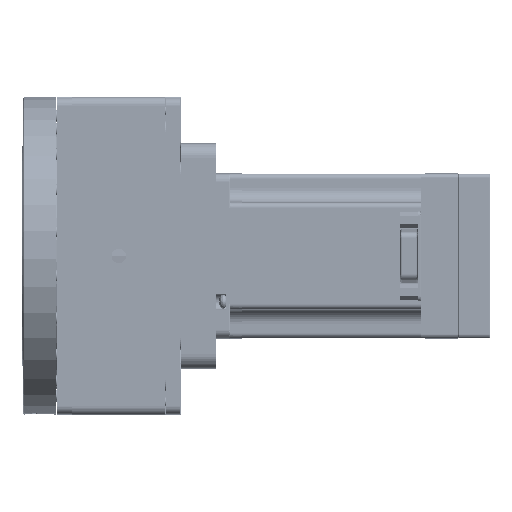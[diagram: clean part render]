
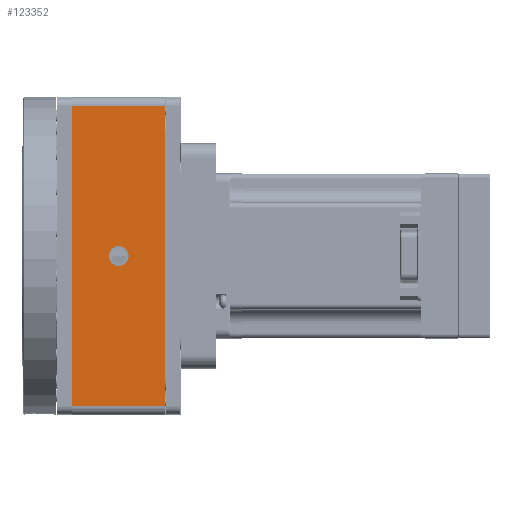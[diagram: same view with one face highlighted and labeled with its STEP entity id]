
A CAD part, left-side view. The second image highlights one B-rep face of the part: STEP entity #123352.
In plain terms, the highlighted planar face has unit normal (-1, 0, 0).
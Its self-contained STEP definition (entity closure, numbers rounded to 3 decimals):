
#103 = VECTOR ( 'NONE', #108140, 1000. ) ;
#128 = VECTOR ( 'NONE', #105401, 1000. ) ;
#2340 = AXIS2_PLACEMENT_3D ( 'NONE', #31189, #126376, #89660 ) ;
#3244 = EDGE_CURVE ( 'NONE', #107485, #99388, #67383, .T. ) ;
#6916 = CARTESIAN_POINT ( 'NONE',  ( -143., 37.6, 52. ) ) ;
#7564 = CARTESIAN_POINT ( 'NONE',  ( -143., 21.5, 3.4 ) ) ;
#8407 = CARTESIAN_POINT ( 'NONE',  ( -143., 21.5, 0. ) ) ;
#9738 = ORIENTED_EDGE ( 'NONE', *, *, #85277, .F. ) ;
#13494 = ORIENTED_EDGE ( 'NONE', *, *, #64150, .F. ) ;
#18026 = AXIS2_PLACEMENT_3D ( 'NONE', #37035, #95521, #132220 ) ;
#19841 = CARTESIAN_POINT ( 'NONE',  ( -143., 5.4, 52. ) ) ;
#20563 = DIRECTION ( 'NONE',  ( 0., 1., 0. ) ) ;
#21940 = CARTESIAN_POINT ( 'NONE',  ( -143., 5.4, -55. ) ) ;
#23698 = CIRCLE ( 'NONE', #61051, 3.4 ) ;
#25604 = ORIENTED_EDGE ( 'NONE', *, *, #90526, .F. ) ;
#30097 = VERTEX_POINT ( 'NONE', #7564 ) ;
#31189 = CARTESIAN_POINT ( 'NONE',  ( -143., 21.5, 0. ) ) ;
#31866 = EDGE_CURVE ( 'NONE', #136759, #99388, #88278, .T. ) ;
#33449 = VECTOR ( 'NONE', #89832, 1000. ) ;
#37035 = CARTESIAN_POINT ( 'NONE',  ( -143., 43., -55. ) ) ;
#43233 = EDGE_LOOP ( 'NONE', ( #13494, #152662, #47791, #84455 ) ) ;
#47791 = ORIENTED_EDGE ( 'NONE', *, *, #31866, .F. ) ;
#58270 = DIRECTION ( 'NONE',  ( 0., 0., 1. ) ) ;
#60523 = CARTESIAN_POINT ( 'NONE',  ( -143., 43., -52. ) ) ;
#61051 = AXIS2_PLACEMENT_3D ( 'NONE', #8407, #152670, #58270 ) ;
#61150 = FACE_OUTER_BOUND ( 'NONE', #43233, .T. ) ;
#64150 = EDGE_CURVE ( 'NONE', #107485, #137774, #104633, .T. ) ;
#64276 = CARTESIAN_POINT ( 'NONE',  ( -143., 21.5, -3.4 ) ) ;
#67383 = LINE ( 'NONE', #127455, #104566 ) ;
#68418 = VERTEX_POINT ( 'NONE', #64276 ) ;
#84455 = ORIENTED_EDGE ( 'NONE', *, *, #121801, .T. ) ;
#85277 = EDGE_CURVE ( 'NONE', #30097, #68418, #23698, .T. ) ;
#88278 = LINE ( 'NONE', #137439, #33449 ) ;
#89660 = DIRECTION ( 'NONE',  ( 0., 0., 1. ) ) ;
#89832 = DIRECTION ( 'NONE',  ( 0., 0., 1. ) ) ;
#90526 = EDGE_CURVE ( 'NONE', #68418, #30097, #136888, .T. ) ;
#95521 = DIRECTION ( 'NONE',  ( 1., 0., 0. ) ) ;
#99388 = VERTEX_POINT ( 'NONE', #6916 ) ;
#103420 = EDGE_LOOP ( 'NONE', ( #9738, #25604 ) ) ;
#104566 = VECTOR ( 'NONE', #20563, 1000. ) ;
#104633 = LINE ( 'NONE', #21940, #128 ) ;
#105401 = DIRECTION ( 'NONE',  ( 0., 0., -1. ) ) ;
#107255 = PLANE ( 'NONE',  #18026 ) ;
#107485 = VERTEX_POINT ( 'NONE', #19841 ) ;
#108140 = DIRECTION ( 'NONE',  ( 0., -1., 0. ) ) ;
#119877 = LINE ( 'NONE', #60523, #103 ) ;
#121801 = EDGE_CURVE ( 'NONE', #136759, #137774, #119877, .T. ) ;
#123352 = ADVANCED_FACE ( 'NONE', ( #131444, #61150 ), #107255, .F. ) ;
#124526 = CARTESIAN_POINT ( 'NONE',  ( -143., 5.4, -52. ) ) ;
#126376 = DIRECTION ( 'NONE',  ( -1., 0., 0. ) ) ;
#127455 = CARTESIAN_POINT ( 'NONE',  ( -143., 43., 52. ) ) ;
#131444 = FACE_BOUND ( 'NONE', #103420, .T. ) ;
#132220 = DIRECTION ( 'NONE',  ( 0., 0., -1. ) ) ;
#136759 = VERTEX_POINT ( 'NONE', #138677 ) ;
#136888 = CIRCLE ( 'NONE', #2340, 3.4 ) ;
#137439 = CARTESIAN_POINT ( 'NONE',  ( -143., 37.6, -55. ) ) ;
#137774 = VERTEX_POINT ( 'NONE', #124526 ) ;
#138677 = CARTESIAN_POINT ( 'NONE',  ( -143., 37.6, -52. ) ) ;
#152662 = ORIENTED_EDGE ( 'NONE', *, *, #3244, .T. ) ;
#152670 = DIRECTION ( 'NONE',  ( -1., 0., 0. ) ) ;
